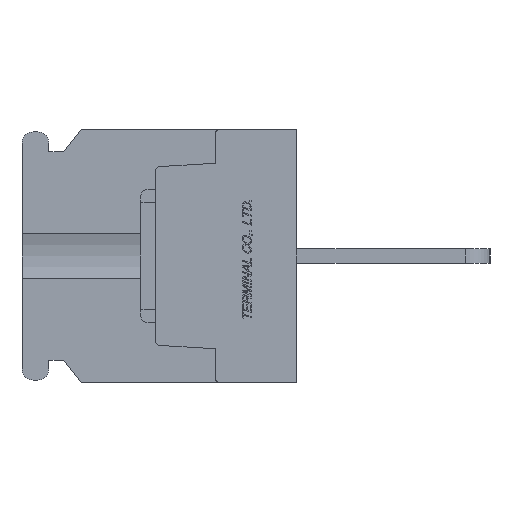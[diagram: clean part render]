
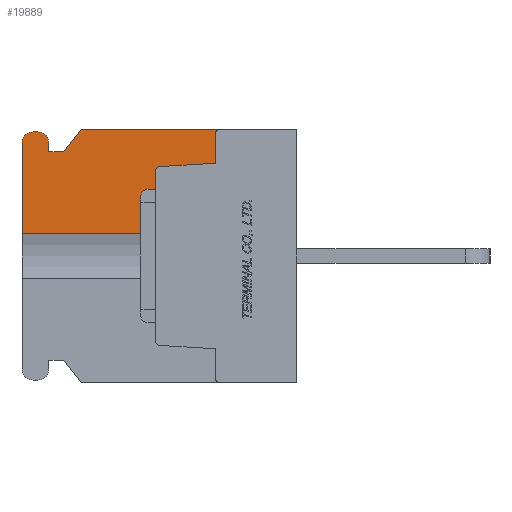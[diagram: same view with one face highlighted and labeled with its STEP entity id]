
A CAD part, left-side view. The second image highlights one B-rep face of the part: STEP entity #19889.
In plain terms, the highlighted planar face has unit normal (-1, 0, 0).
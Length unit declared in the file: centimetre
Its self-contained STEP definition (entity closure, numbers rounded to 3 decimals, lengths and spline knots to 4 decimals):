
#1555=VECTOR('',#22760,1.);
#1557=VECTOR('',#22763,1.);
#1559=VECTOR('',#22770,1.);
#1560=VECTOR('',#22771,1.);
#1561=VECTOR('',#22772,1.);
#1562=VECTOR('',#22773,1.);
#1563=VECTOR('',#22774,1.);
#1564=VECTOR('',#22777,1.);
#1565=VECTOR('',#22780,1.);
#1566=VECTOR('',#22781,1.);
#3707=LINE('',#29407,#1555);
#3709=LINE('',#29411,#1557);
#3711=LINE('',#29417,#1559);
#3712=LINE('',#29419,#1560);
#3713=LINE('',#29421,#1561);
#3714=LINE('',#29423,#1562);
#3715=LINE('',#29425,#1563);
#3716=LINE('',#29429,#1564);
#3717=LINE('',#29433,#1565);
#3718=LINE('',#29435,#1566);
#5924=VERTEX_POINT('',#29400);
#5925=VERTEX_POINT('',#29402);
#5926=VERTEX_POINT('',#29406);
#5927=VERTEX_POINT('',#29410);
#5928=VERTEX_POINT('',#29414);
#5929=VERTEX_POINT('',#29418);
#5930=VERTEX_POINT('',#29420);
#5931=VERTEX_POINT('',#29422);
#5932=VERTEX_POINT('',#29424);
#5933=VERTEX_POINT('',#29426);
#5934=VERTEX_POINT('',#29428);
#5935=VERTEX_POINT('',#29430);
#5936=VERTEX_POINT('',#29432);
#5937=VERTEX_POINT('',#29434);
#7215=CIRCLE('',#33802,0.03);
#7216=CIRCLE('',#33806,0.03);
#7217=CIRCLE('',#33808,0.075);
#7218=CIRCLE('',#33809,0.075);
#8891=EDGE_CURVE('',#5925,#5924,#7215,.T.);
#8894=EDGE_CURVE('',#5924,#5926,#3707,.T.);
#8896=EDGE_CURVE('',#5926,#5927,#3709,.T.);
#8898=EDGE_CURVE('',#5927,#5928,#7216,.T.);
#8899=EDGE_CURVE('',#5929,#5925,#3711,.T.);
#8900=EDGE_CURVE('',#5930,#5928,#3712,.T.);
#8901=EDGE_CURVE('',#5931,#5930,#3713,.T.);
#8902=EDGE_CURVE('',#5932,#5931,#3714,.T.);
#8903=EDGE_CURVE('',#5933,#5932,#3715,.T.);
#8904=EDGE_CURVE('',#5934,#5933,#7217,.T.);
#8905=EDGE_CURVE('',#5935,#5934,#3716,.T.);
#8906=EDGE_CURVE('',#5936,#5935,#7218,.T.);
#8907=EDGE_CURVE('',#5937,#5936,#3717,.T.);
#8908=EDGE_CURVE('',#5937,#5929,#3718,.T.);
#13102=ORIENTED_EDGE('',*,*,#8899,.T.);
#13103=ORIENTED_EDGE('',*,*,#8891,.T.);
#13104=ORIENTED_EDGE('',*,*,#8894,.T.);
#13105=ORIENTED_EDGE('',*,*,#8896,.T.);
#13106=ORIENTED_EDGE('',*,*,#8898,.T.);
#13107=ORIENTED_EDGE('',*,*,#8900,.F.);
#13108=ORIENTED_EDGE('',*,*,#8901,.F.);
#13109=ORIENTED_EDGE('',*,*,#8902,.F.);
#13110=ORIENTED_EDGE('',*,*,#8903,.F.);
#13111=ORIENTED_EDGE('',*,*,#8904,.F.);
#13112=ORIENTED_EDGE('',*,*,#8905,.F.);
#13113=ORIENTED_EDGE('',*,*,#8906,.F.);
#13114=ORIENTED_EDGE('',*,*,#8907,.F.);
#13115=ORIENTED_EDGE('',*,*,#8908,.T.);
#17367=EDGE_LOOP('',(#13102,#13103,#13104,#13105,#13106,#13107,#13108,#13109,
#13110,#13111,#13112,#13113,#13114,#13115));
#18655=FACE_BOUND('',#17367,.T.);
#19889=ADVANCED_FACE('',(#18655),#20880,.F.);
#20880=PLANE('',#33807);
#22755=DIRECTION('',(1.,0.,0.));
#22756=DIRECTION('',(0.,0.,0.03));
#22760=DIRECTION('',(0.,-0.998,0.061));
#22763=DIRECTION('',(0.,0.,1.));
#22767=DIRECTION('',(1.,0.,0.));
#22768=DIRECTION('',(0.,0.,0.03));
#22769=DIRECTION('',(1.,0.,0.));
#22770=DIRECTION('',(0.,0.,1.));
#22771=DIRECTION('',(0.,-1.,0.));
#22772=DIRECTION('',(0.,-0.625,0.781));
#22773=DIRECTION('',(0.,-1.,0.));
#22774=DIRECTION('',(0.,0.,-1.));
#22775=DIRECTION('',(1.,0.,0.));
#22776=DIRECTION('',(0.,0.,-0.075));
#22777=DIRECTION('',(0.,-1.,0.));
#22778=DIRECTION('',(1.,0.,0.));
#22779=DIRECTION('',(0.,0.,-0.075));
#22780=DIRECTION('',(0.,0.,1.));
#22781=DIRECTION('',(0.,-1.,0.));
#29400=CARTESIAN_POINT('',(-1.1,0.9218,0.6017));
#29401=CARTESIAN_POINT('',(-1.1,0.92,0.5718));
#29402=CARTESIAN_POINT('',(-1.1,0.95,0.5718));
#29406=CARTESIAN_POINT('',(-1.1,0.55,0.6245));
#29407=CARTESIAN_POINT('',(-1.1,0.859,0.6056));
#29410=CARTESIAN_POINT('',(-1.1,0.55,0.82));
#29411=CARTESIAN_POINT('',(-1.1,0.55,0.3611));
#29414=CARTESIAN_POINT('',(-1.1,0.52,0.85));
#29415=CARTESIAN_POINT('',(-1.1,0.52,0.82));
#29416=CARTESIAN_POINT('',(-1.1,0.9454,0.));
#29417=CARTESIAN_POINT('',(-1.1,0.95,0.));
#29418=CARTESIAN_POINT('',(-1.1,0.95,0.1521));
#29419=CARTESIAN_POINT('',(-1.1,1.45,0.85));
#29420=CARTESIAN_POINT('',(-1.1,1.45,0.85));
#29421=CARTESIAN_POINT('',(-1.1,1.57,0.7));
#29422=CARTESIAN_POINT('',(-1.1,1.57,0.7));
#29423=CARTESIAN_POINT('',(-1.1,1.67,0.7));
#29424=CARTESIAN_POINT('',(-1.1,1.67,0.7));
#29425=CARTESIAN_POINT('',(-1.1,1.67,0.76));
#29426=CARTESIAN_POINT('',(-1.1,1.67,0.76));
#29427=CARTESIAN_POINT('',(-1.1,1.745,0.76));
#29428=CARTESIAN_POINT('',(-1.1,1.745,0.835));
#29429=CARTESIAN_POINT('',(-1.1,1.775,0.835));
#29430=CARTESIAN_POINT('',(-1.1,1.775,0.835));
#29431=CARTESIAN_POINT('',(-1.1,1.775,0.76));
#29432=CARTESIAN_POINT('',(-1.1,1.85,0.76));
#29433=CARTESIAN_POINT('',(-1.1,1.85,-0.76));
#29434=CARTESIAN_POINT('',(-1.1,1.85,0.1521));
#29435=CARTESIAN_POINT('',(-1.1,1.4,0.1521));
#33802=AXIS2_PLACEMENT_3D('',#29401,#22755,#22756);
#33806=AXIS2_PLACEMENT_3D('',#29415,#22767,#22768);
#33807=AXIS2_PLACEMENT_3D('',#29416,#22769,$);
#33808=AXIS2_PLACEMENT_3D('',#29427,#22775,#22776);
#33809=AXIS2_PLACEMENT_3D('',#29431,#22778,#22779);
